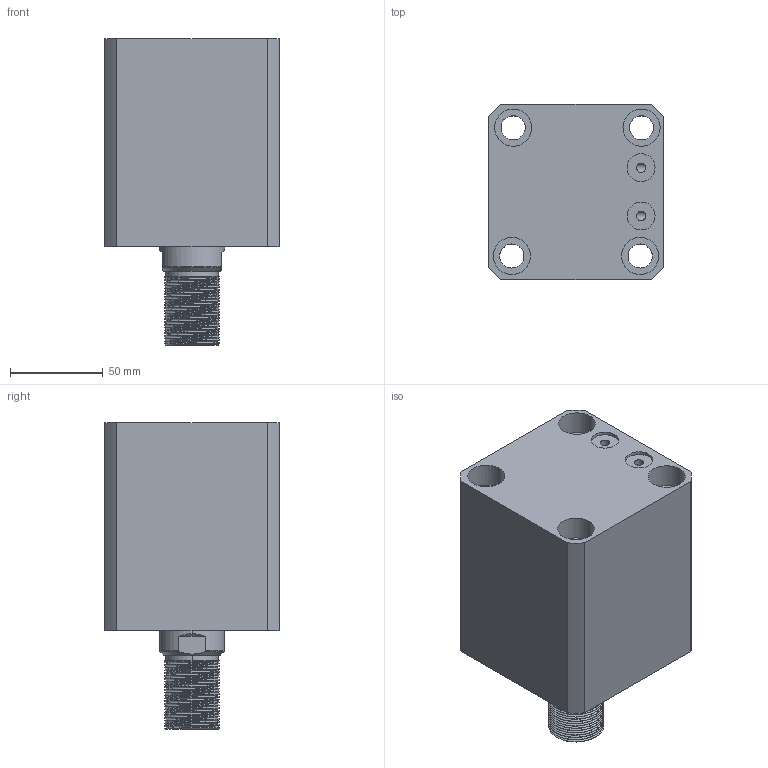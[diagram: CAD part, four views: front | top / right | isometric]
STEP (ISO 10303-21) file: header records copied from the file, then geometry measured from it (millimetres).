
FILE_DESCRIPTION (( 'STEP AP214' ), '1' );
FILE_NAME ('chtb-sdmb63x45w_asm.STEP', '2018-05-18T11:41:37', ( 'Windows' ), ( 'Microsoft' ), 'SwSTEP 2.0', 'SolidWorks 2015', '' );
FILE_SCHEMA (( 'AUTOMOTIVE_DESIGN' ));
Length unit declared in the file: millimetre
Products named in the file (4): CHTB-SDMB63X45NBT; CHTB63X45WHSG; CHTB-63QG; chtb-sdmb63x45w_asm
Assembly tree (3 placements, depth 2):
  chtb-sdmb63x45w_asm
    CHTB-63QG
    CHTB63X45WHSG
    CHTB-SDMB63X45NBT
Bounding box: 94 x 94 x 165 mm (x, y, z)
Volume: 842074.2 mm3; surface area: 145859 mm2
Topology: 3 solids, 3 shells, 218 faces, 628 edges, 427 vertices
Faces by surface type: cylinder 156, plane 33, bspline 14, cone 9, torus 6
Entity records: 22278 total; most frequent: CARTESIAN_POINT 17042, ORIENTED_EDGE 1248, DIRECTION 869, EDGE_CURVE 624, VERTEX_POINT 427, AXIS2_PLACEMENT_3D 339, EDGE_LOOP 251, FACE_OUTER_BOUND 218
